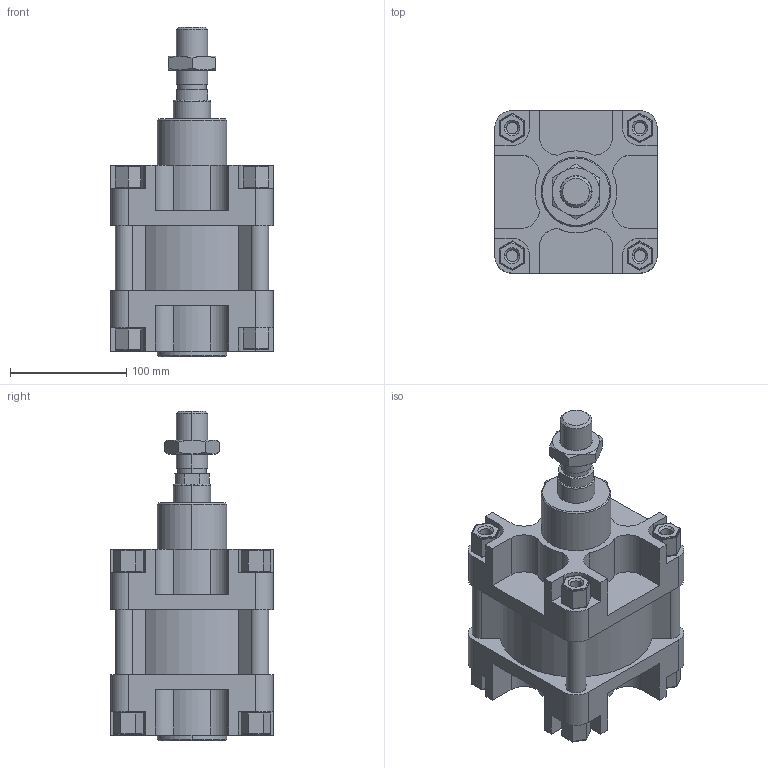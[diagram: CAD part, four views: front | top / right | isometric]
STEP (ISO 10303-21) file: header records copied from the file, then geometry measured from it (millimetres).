
FILE_DESCRIPTION(('STEP AP214'),'1');
FILE_NAME('901250000.stp','2016-07-21T12:50:02',(' '),(' '),'Spatial InterOp 3D',' ',' ');
FILE_SCHEMA(('automotive_design'));
Length unit declared in the file: metre
Products named in the file (7): 12; 15; 2; 3; 5; 11; 14
Bounding box: 140 x 140 x 284 mm (x, y, z)
Volume: 157080.6 mm3; surface area: 270393.3 mm2
Topology: 4 solids, 505 shells, 587 faces, 2652 edges, 2572 vertices
Faces by surface type: cylinder 316, plane 187, cone 82, torus 2
Entity records: 32277 total; most frequent: CARTESIAN_POINT 6324, DIRECTION 4806, ORIENTED_EDGE 2854, EDGE_CURVE 2648, VERTEX_POINT 2572, AXIS2_PLACEMENT_3D 1668, LINE 1470, VECTOR 1470
